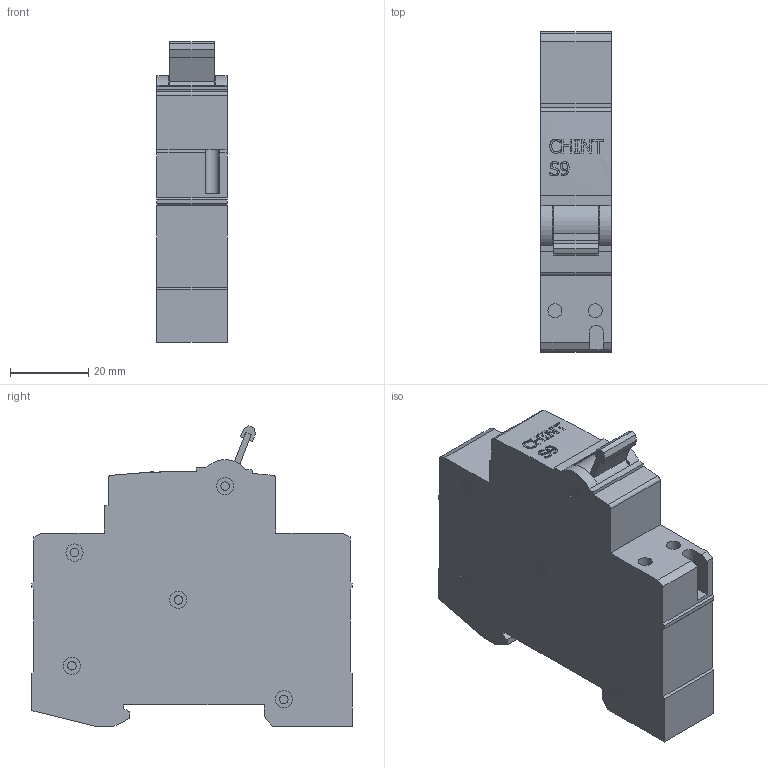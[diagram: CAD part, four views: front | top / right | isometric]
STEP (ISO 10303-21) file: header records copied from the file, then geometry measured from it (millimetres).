
FILE_DESCRIPTION(/* description */ (''),/* implementation_level */ '2;1');
FILE_NAME(/* name */ 'D:\CHINT\Аксессуары для автоматического выключателя Серия NB1\Независимый расцепительS9 для NB1 (R) (CHINT).stp',/* time_stamp */ '2017-09-30T16:41:09+04:00',/* author */ ('RSagdiev'),/* organization */ (''),/* preprocessor_version */ 'ST-DEVELOPER v16.5',/* originating_system */ 'Autodesk Inventor 2017',/* authorisation */ '');
FILE_SCHEMA (('AUTOMOTIVE_DESIGN { 1 0 10303 214 3 1 1 }'));
Length unit declared in the file: millimetre
Products named in the file (1): Независимый \X2\044004300441
04460435043F043804420435043B044C\X0\S9 для NB1 (R) (C
HINT)
Bounding box: 18 x 82 x 76.99 mm (x, y, z)
Volume: 80296.7 mm3; surface area: 16541 mm2
Topology: 3 solids, 3 shells, 226 faces, 566 edges, 376 vertices
Faces by surface type: plane 133, bspline 51, cylinder 42
Full cylindrical faces by diameter (mm): 2.2 x11, 3.575 x2, 4.4 x10
Entity records: 7631 total; most frequent: CARTESIAN_POINT 2482, ORIENTED_EDGE 1086, DIRECTION 915, EDGE_CURVE 543, VERTEX_POINT 376, LINE 319, VECTOR 319, AXIS2_PLACEMENT_3D 298
